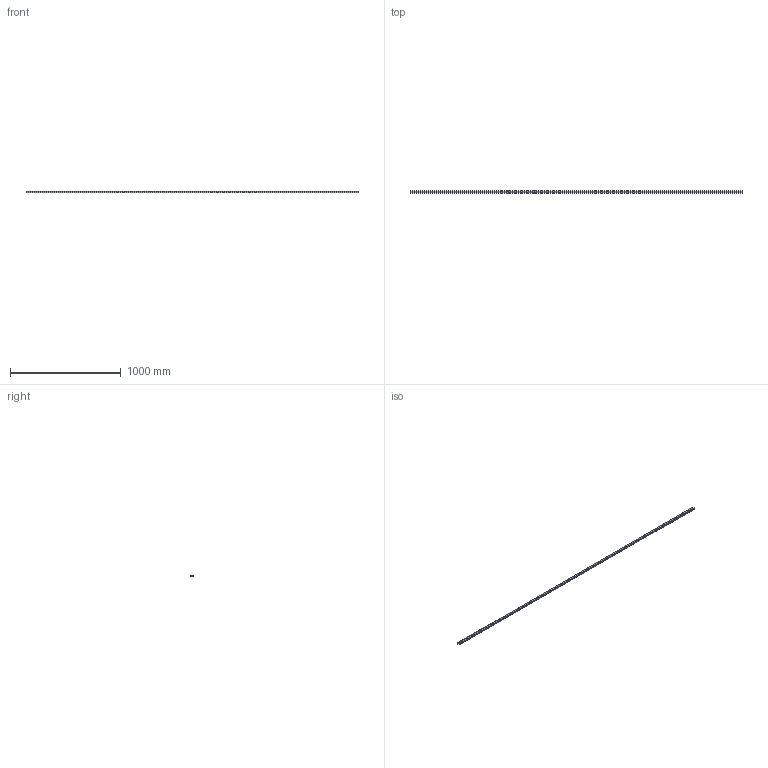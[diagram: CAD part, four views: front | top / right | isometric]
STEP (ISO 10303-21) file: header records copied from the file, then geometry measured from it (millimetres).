
FILE_DESCRIPTION (( 'STEP AP214' ), '1' );
FILE_NAME ('FABER - FGRRF 3x20x15.step', '2017-04-06T07:46:03', ( '' ), ( '' ), 'SwSTEP 2.0', 'SolidWorks 2016', '' );
FILE_SCHEMA (( 'AUTOMOTIVE_DESIGN' ));
Length unit declared in the file: millimetre
Products named in the file (1): FABER - FGRRF 3x20x15
Bounding box: 3000 x 19.15 x 15 mm (x, y, z)
Volume: 361349 mm3; surface area: 360323.6 mm2
Topology: 1 solids, 1 shells, 34 faces, 96 edges, 64 vertices
Faces by surface type: cylinder 24, plane 10
Entity records: 1166 total; most frequent: DIRECTION 214, CARTESIAN_POINT 195, ORIENTED_EDGE 192, EDGE_CURVE 96, AXIS2_PLACEMENT_3D 83, VERTEX_POINT 64, VECTOR 48, CIRCLE 48
